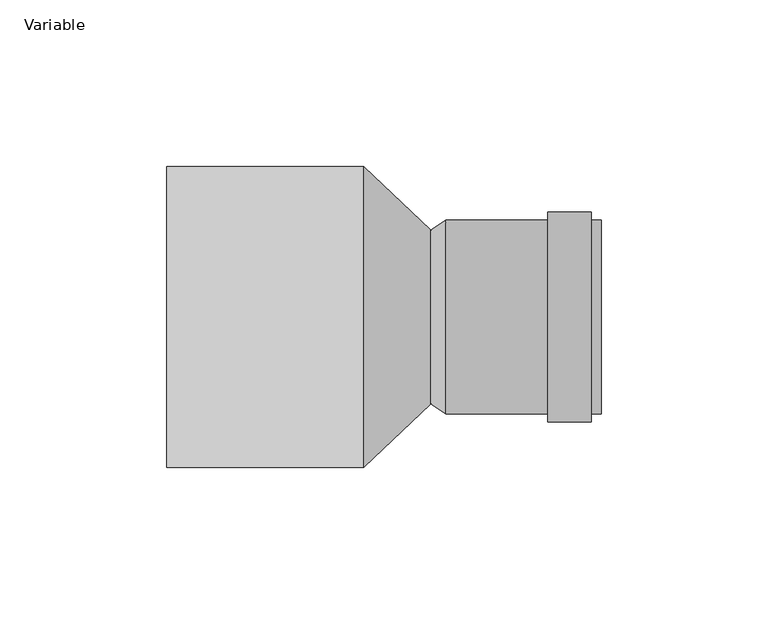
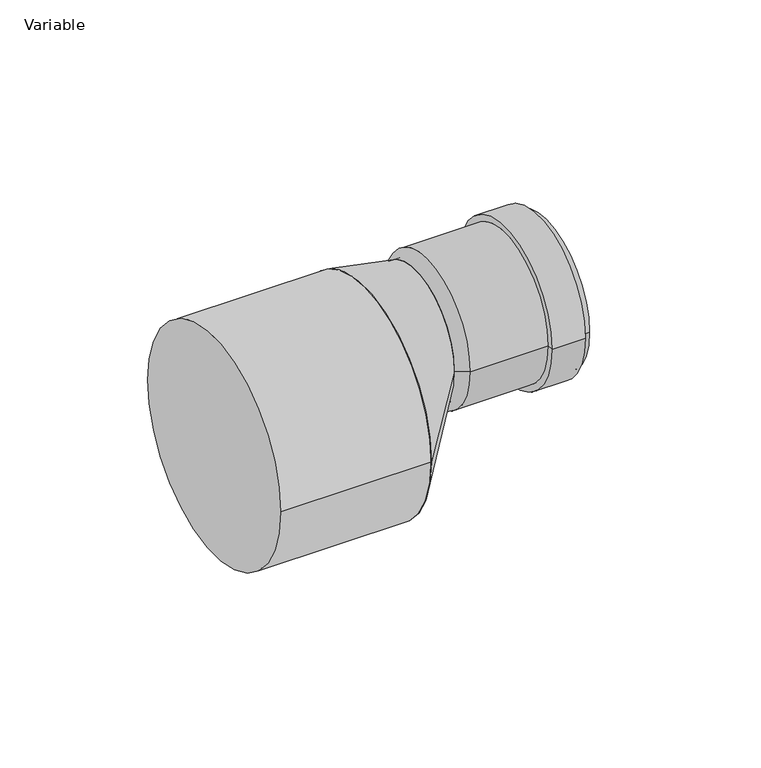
"""IFC4 building model written with IfcOpenShell, lengths in millimetres: pipe fitting geometry, AliaxisFR_Friaphon_Reducer_FR : Variable."""

import ifcopenshell
import ifcopenshell.guid

model = None  # the IFC model being written
_history = None  # IfcOwnerHistory: only IFC2X3 demands one
_inside = {}  # id of a spatial element -> (the spatial element, [elements in it])
_under = {}  # id of a project, library or spatial element -> (it, [spatial elements below it])
_declared = {}  # id of a project -> (the project, [libraries it declares])
_typed = {}  # id of a type object -> (the type object, [elements of that type])
_made_of = {}  # id of a material, layer set ... -> (it, [elements and type objects made of it])


def new_model(schema):
    """Start an empty IFC model of exactly this schema.

    Asked for "IFC4X3", IfcOpenShell would pick the latest addendum, in which some entities
    have other attributes; the version numbers below select the first issue.
    IFC2X3 requires an IfcOwnerHistory on every rooted entity: one is made here for all.
    """
    global model, _history
    if schema == "IFC4X3":
        model = ifcopenshell.file(schema_version=(4, 3, 0, 0))
    else:
        model = ifcopenshell.file(schema=schema)
    _inside.clear()
    _under.clear()
    _declared.clear()
    _typed.clear()
    _made_of.clear()
    _history = None
    if model.schema == "IFC2X3":
        org = make("IfcOrganization", Name="unknown")
        user = make(
            "IfcPersonAndOrganization",
            ThePerson=make("IfcPerson", FamilyName="unknown"),
            TheOrganization=org,
        )
        app = make(
            "IfcApplication",
            ApplicationDeveloper=org,
            Version="unknown",
            ApplicationFullName="unknown",
            ApplicationIdentifier="unknown",
        )
        _history = make(
            "IfcOwnerHistory",
            OwningUser=user,
            OwningApplication=app,
            ChangeAction="ADDED",
            CreationDate=0,
        )
    return model


def make(cls, **values):
    """One entity of the class cls with the attributes given. An attribute that is None is left unset."""
    return model.create_entity(
        cls, **{name: value for name, value in values.items() if value is not None}
    )


def rooted(cls, **values):
    """An entity with a GlobalId (a new one), such as an element, a storey or a relation."""
    return make(cls, GlobalId=ifcopenshell.guid.new(), OwnerHistory=_history, **values)


def si_unit(unit_type, name, prefix=None):
    """IfcSIUnit, for example si_unit("LENGTHUNIT", "METRE", prefix="MILLI")."""
    return make("IfcSIUnit", UnitType=unit_type, Prefix=prefix, Name=name)


def assignment(units):
    """IfcUnitAssignment: the units of a project."""
    return None if units is None else make("IfcUnitAssignment", Units=units)


def point(xyz):
    """IfcCartesianPoint."""
    return None if xyz is None else make("IfcCartesianPoint", Coordinates=xyz)


def direction(xyz):
    """IfcDirection."""
    return None if xyz is None else make("IfcDirection", DirectionRatios=xyz)


def frame(location, z_axis=None, x_axis=None):
    """IfcAxis2Placement3D, a coordinate frame: its origin and axes. An axis left out is left unset."""
    return make(
        "IfcAxis2Placement3D",
        Location=point(location),
        Axis=direction(z_axis),
        RefDirection=direction(x_axis),
    )


def frame_2d(location, x_axis=None):
    """IfcAxis2Placement2D, a coordinate frame in the plane: its origin and x axis."""
    return make(
        "IfcAxis2Placement2D", Location=point(location), RefDirection=direction(x_axis)
    )


def origin():
    """The frame at (0, 0, 0) with its axes left unset."""
    return frame((0.0, 0.0, 0.0))


def origin_2d():
    """The frame at (0, 0) in the plane with its x axis left unset."""
    return frame_2d((0.0, 0.0))


def place(relative_to, where):
    """IfcLocalPlacement: puts the frame where relative to a parent placement (None: the world)."""
    return make(
        "IfcLocalPlacement", PlacementRelTo=relative_to, RelativePlacement=where
    )


def context(
    kind, dimensions, precision=None, world=None, true_north=None, identifier=None
):
    """IfcGeometricRepresentationContext, for example the 3D "Model" context."""
    return make(
        "IfcGeometricRepresentationContext",
        ContextIdentifier=identifier,
        ContextType=kind,
        CoordinateSpaceDimension=dimensions,
        Precision=precision,
        WorldCoordinateSystem=world,
        TrueNorth=true_north,
    )


def project(units=None, contexts=None):
    """IfcProject with its units and contexts."""
    return rooted(
        "IfcProject",
        Name="project",
        RepresentationContexts=contexts,
        UnitsInContext=assignment(units),
    )


def spatial(cls, under=None, at=None, **own):
    """A site, building, storey or space (cls), placed at a placement, below another one or the project."""
    s = rooted(cls, ObjectPlacement=at, **own)
    if under is not None:
        _under.setdefault(under.id(), (under, []))[1].append(s)
    return s


def polyline(points):
    """IfcPolyline through the points."""
    return make("IfcPolyline", Points=[point(p) for p in points])


def circle_curve(where, radius):
    """IfcCircle in the frame where."""
    return make("IfcCircle", Position=where, Radius=radius)


def trimmed(basis, trim1, trim2, sense, master):
    """IfcTrimmedCurve: the piece of a basis curve between two trims."""
    return make(
        "IfcTrimmedCurve",
        BasisCurve=basis,
        Trim1=trim1,
        Trim2=trim2,
        SenseAgreement=sense,
        MasterRepresentation=master,
    )


def segment(curve, same_sense, transition):
    """IfcCompositeCurveSegment."""
    return make(
        "IfcCompositeCurveSegment",
        Transition=transition,
        SameSense=same_sense,
        ParentCurve=curve,
    )


def composite_curve(segments, self_intersect=None):
    """IfcCompositeCurve: segments joined end to end."""
    return make("IfcCompositeCurve", Segments=segments, SelfIntersect=self_intersect)


def outline(outer, holes=None, kind="AREA"):
    """IfcArbitraryClosedProfileDef: a profile drawn as a closed curve; with holes, ...WithVoids."""
    if holes is None:
        return make("IfcArbitraryClosedProfileDef", ProfileType=kind, OuterCurve=outer)
    return make(
        "IfcArbitraryProfileDefWithVoids",
        ProfileType=kind,
        OuterCurve=outer,
        InnerCurves=holes,
    )


def extrude(swept, where, along, depth):
    """IfcExtrudedAreaSolid: the profile swept, set in the frame where, extruded along a direction by depth."""
    return make(
        "IfcExtrudedAreaSolid",
        SweptArea=swept,
        Position=where,
        ExtrudedDirection=direction(along),
        Depth=depth,
    )


def shape(context_of_items, identifier, shape_type, items):
    """IfcShapeRepresentation: the items that make up one representation, for example the "Body"."""
    return make(
        "IfcShapeRepresentation",
        ContextOfItems=context_of_items,
        RepresentationIdentifier=identifier,
        RepresentationType=shape_type,
        Items=items,
    )


def source(mapping_origin, context_of_items, identifier, shape_type, items):
    """IfcRepresentationMap: a shape defined once, which mapped items show again and again."""
    return make(
        "IfcRepresentationMap",
        MappingOrigin=mapping_origin,
        MappedRepresentation=shape(context_of_items, identifier, shape_type, items),
    )


def transform(
    local_origin,
    x_axis=None,
    y_axis=None,
    z_axis=None,
    scale=None,
    scale2=None,
    scale3=None,
    uniform=True,
):
    """IfcCartesianTransformationOperator3D, or its non-uniform kind. x_axis, y_axis, z_axis: its Axis1, 2, 3."""
    if uniform:
        return make(
            "IfcCartesianTransformationOperator3D",
            Axis1=direction(x_axis),
            Axis2=direction(y_axis),
            LocalOrigin=point(local_origin),
            Scale=scale,
            Axis3=direction(z_axis),
        )
    return make(
        "IfcCartesianTransformationOperator3DnonUniform",
        Axis1=direction(x_axis),
        Axis2=direction(y_axis),
        LocalOrigin=point(local_origin),
        Scale=scale,
        Axis3=direction(z_axis),
        Scale2=scale2,
        Scale3=scale3,
    )


def mapped(mapping_source, mapping_target):
    """IfcMappedItem: shows the shape of a source again, moved by a transform."""
    return make(
        "IfcMappedItem", MappingSource=mapping_source, MappingTarget=mapping_target
    )


def made_of(thing, what):
    """Note that an element or type object is made of a material, layer set ...; save() writes the relation."""
    if what is not None:
        _made_of.setdefault(what.id(), (what, []))[1].append(thing)
    return thing


def element(
    cls,
    number,
    at=None,
    inside=None,
    cuts=None,
    type_object=None,
    material=None,
    context=None,
    identifier="Body",
    shape_type=None,
    held_by="IfcProductDefinitionShape",
    body=None,
    shapes=None,
    **own,
):
    """One element of the class cls, such as IfcWall. Its Tag is "e" and its number.

    at: its placement. inside: the storey or other place that contains it. cuts: it is an
    opening in that element (IfcRelVoidsElement). A single representation is given by context,
    identifier, shape_type and body (its items); several are given by shapes. held_by: the class
    of the entity that holds the representations. save() writes the other relations.
    """
    e = rooted(cls, Tag="e%d" % number, ObjectPlacement=at, **own)
    if body is not None:
        shapes = [shape(context, identifier, shape_type, body)]
    if shapes is not None:
        e.Representation = make(held_by, Representations=shapes)
    if inside is not None:
        _inside.setdefault(inside.id(), (inside, []))[1].append(e)
    if cuts is not None:
        rooted(
            "IfcRelVoidsElement", RelatingBuildingElement=cuts, RelatedOpeningElement=e
        )
    if type_object is not None:
        _typed.setdefault(type_object.id(), (type_object, []))[1].append(e)
    return made_of(e, material)


def aggregate(whole, parts):
    """IfcRelAggregates: a whole, such as a stair, and the parts it consists of."""
    return rooted("IfcRelAggregates", RelatingObject=whole, RelatedObjects=parts)


def save(model, path):
    """Write the relations noted so far, then the file.

    IfcRelAggregates (storeys below a building ...), IfcRelContainedInSpatialStructure (elements
    in a storey), IfcRelDefinesByType, IfcRelAssociatesMaterial and IfcRelDeclares: one each for
    every whole, place, type object, material and project.
    """
    for whole, parts in _under.values():
        aggregate(whole, parts)
    for where, things in _inside.values():
        rooted(
            "IfcRelContainedInSpatialStructure",
            RelatedElements=things,
            RelatingStructure=where,
        )
    for kind, things in _typed.values():
        rooted("IfcRelDefinesByType", RelatedObjects=things, RelatingType=kind)
    for what, things in _made_of.values():
        rooted("IfcRelAssociatesMaterial", RelatedObjects=things, RelatingMaterial=what)
    for by, libraries in _declared.values():
        rooted("IfcRelDeclares", RelatingContext=by, RelatedDefinitions=libraries)
    model.write(path)


def plane_surface(at):
    """IfcPlane: the flat surface through the origin of the frame at, square to its z axis."""
    return make("IfcPlane", Position=at)


def cylinder_surface(at, radius):
    """IfcCylindricalSurface: all points at the distance radius from the z axis of the frame at."""
    return make("IfcCylindricalSurface", Position=at, Radius=radius)


def revolved_surface(curve, axis_point, axis_direction):
    """IfcSurfaceOfRevolution: the curve turned about the line through axis_point along axis_direction."""
    return make(
        "IfcSurfaceOfRevolution",
        SweptCurve=make("IfcArbitraryOpenProfileDef", ProfileType="CURVE", Curve=curve),
        AxisPosition=make("IfcAxis1Placement", Location=point(axis_point), Axis=direction(axis_direction)),
    )


def spline_surface(u_degree, v_degree, points, u_multiplicities, v_multiplicities, u_knots, v_knots, weights=None):
    """IfcBSplineSurfaceWithKnots; with weights, IfcRationalBSplineSurfaceWithKnots. points: one row for each step in u."""
    own = dict(
        UDegree=u_degree,
        VDegree=v_degree,
        ControlPointsList=[[point(p) for p in row] for row in points],
        SurfaceForm="UNSPECIFIED",
        UClosed=False,
        VClosed=False,
        SelfIntersect=False,
        UMultiplicities=u_multiplicities,
        VMultiplicities=v_multiplicities,
        UKnots=u_knots,
        VKnots=v_knots,
        KnotSpec="UNSPECIFIED",
    )
    if weights is None:
        return make("IfcBSplineSurfaceWithKnots", **own)
    return make("IfcRationalBSplineSurfaceWithKnots", WeightsData=weights, **own)


def advanced_brep(points, edges, surfaces, faces):
    """IfcAdvancedBrep: a solid bounded by faces that lie on surfaces and meet in shared edges.

    An edge is (start, end): straight between two places in points (the first is 0);
    or (start, end, curve); or (start, end, curve, False) where it runs against its curve.
    A face is (place in surfaces, loops), or (place, loops, False) where it looks against
    its surface's normal. A loop lists edges by number (the first is 1), with a minus sign
    where the edge is run from its end to its start. The first loop is the outer one.
    """
    corners = [point(p) for p in points]
    vertices = [make("IfcVertexPoint", VertexGeometry=c) for c in corners]
    made = []
    for start, end, *more in edges:
        made.append(
            make(
                "IfcEdgeCurve",
                EdgeStart=vertices[start],
                EdgeEnd=vertices[end],
                EdgeGeometry=more[0] if more else make("IfcPolyline", Points=[corners[start], corners[end]]),
                SameSense=more[1] if len(more) > 1 else True,
            )
        )
    hull = []
    for where, loops, *sense in faces:
        bounds = []
        for j, loop in enumerate(loops):
            ring = [make("IfcOrientedEdge", EdgeElement=made[abs(k) - 1], Orientation=k > 0) for k in loop]
            bounds.append(
                make(
                    "IfcFaceOuterBound" if j == 0 else "IfcFaceBound",
                    Bound=make("IfcEdgeLoop", EdgeList=ring),
                    Orientation=True,
                )
            )
        hull.append(make("IfcAdvancedFace", Bounds=bounds, FaceSurface=surfaces[where], SameSense=sense[0] if sense else True))
    return make("IfcAdvancedBrep", Outer=make("IfcClosedShell", CfsFaces=hull))


def variable_a446220a(model_context):
    return source(origin(), model_context, "Body", "SolidModel", [
        advanced_brep(
        [(89.0, -29.0, 0.0), (89.0, -26.0, 0.0), (89.0, 26.0, 0.0), (89.0, 29.0, 0.0), (73.0, -31.5, 0.0), (86.0, -31.5, 0.0), (86.0, 31.5, 0.0), (73.0, 31.5, 0.0), (73.0, -29.0, 0.0), (73.0, 29.0, 0.0), (42.5, -29.0, 0.0), (42.5, 29.0, 0.0), (38.0, -26.0, 0.0), (38.0, 26.0, 0.0), (86.0, -29.0, 0.0), (86.0, 29.0, 0.0)],
        [
            (0, 1),
            (1, 2, circle_curve(frame((89.0, 0.0, 0.0), z_axis=(-1.0, 0.0, 0.0), x_axis=(0.0, 1.0, 0.0)), 26.0)),
            (2, 3),
            (3, 0, circle_curve(frame((89.0, 0.0, 0.0), z_axis=(1.0, 0.0, 0.0), x_axis=(0.0, 1.0, 0.0)), 29.0)),
            (2, 1, circle_curve(frame((89.0, 0.0, 0.0), z_axis=(-1.0, 0.0, 0.0), x_axis=(0.0, 1.0, 0.0)), 26.0)),
            (0, 3, circle_curve(frame((89.0, 0.0, 0.0), z_axis=(1.0, 0.0, 0.0), x_axis=(0.0, 1.0, 0.0)), 29.0)),
            (4, 5),
            (5, 6, circle_curve(frame((86.0, 0.0, 0.0), z_axis=(-1.0, 0.0, 0.0), x_axis=(0.0, 1.0, 0.0)), 31.5)),
            (6, 7),
            (7, 4, circle_curve(frame((73.0, 0.0, 0.0), z_axis=(1.0, 0.0, 0.0), x_axis=(0.0, 1.0, 0.0)), 31.5)),
            (6, 5, circle_curve(frame((86.0, 0.0, 0.0), z_axis=(-1.0, 0.0, 0.0), x_axis=(0.0, 1.0, 0.0)), 31.5)),
            (4, 7, circle_curve(frame((73.0, 0.0, 0.0), z_axis=(1.0, 0.0, 0.0), x_axis=(0.0, 1.0, 0.0)), 31.5)),
            (8, 4),
            (7, 9),
            (9, 8, circle_curve(frame((73.0, 0.0, 0.0), z_axis=(1.0, 0.0, 0.0), x_axis=(0.0, 1.0, 0.0)), 29.0)),
            (8, 9, circle_curve(frame((73.0, 0.0, 0.0), z_axis=(1.0, 0.0, 0.0), x_axis=(0.0, 1.0, 0.0)), 29.0)),
            (10, 8),
            (9, 11),
            (11, 10, circle_curve(frame((42.5, 0.0, 0.0), z_axis=(1.0, 0.0, 0.0), x_axis=(0.0, 1.0, 0.0)), 29.0)),
            (10, 11, circle_curve(frame((42.5, 0.0, 0.0), z_axis=(1.0, 0.0, 0.0), x_axis=(0.0, 1.0, 0.0)), 29.0)),
            (1, 12),
            (12, 13, circle_curve(frame((38.0, 0.0, 0.0), z_axis=(-1.0, 0.0, 0.0), x_axis=(0.0, 1.0, 0.0)), 26.0)),
            (13, 2),
            (13, 12, circle_curve(frame((38.0, 0.0, 0.0), z_axis=(-1.0, 0.0, 0.0), x_axis=(0.0, 1.0, 0.0)), 26.0)),
            (12, 10),
            (11, 13),
            (14, 0),
            (3, 15),
            (15, 14, circle_curve(frame((86.0, 0.0, 0.0), z_axis=(1.0, 0.0, 0.0), x_axis=(0.0, 1.0, 0.0)), 29.0)),
            (14, 15, circle_curve(frame((86.0, 0.0, 0.0), z_axis=(1.0, 0.0, 0.0), x_axis=(0.0, 1.0, 0.0)), 29.0)),
            (5, 14),
            (15, 6),
        ],
        [
            plane_surface(frame((89.0, 0.0, 0.0), z_axis=(1.0, 0.0, 0.0), x_axis=(0.0, 1.0, 0.0))),
            cylinder_surface(frame((38.0, 0.0, 0.0), z_axis=(-1.0, 0.0, 0.0), x_axis=(0.0, 1.0, 0.0)), 31.5),
            plane_surface(frame((73.0, 0.0, 0.0), z_axis=(-1.0, 0.0, 0.0), x_axis=(0.0, 1.0, 0.0))),
            cylinder_surface(frame((38.0, 0.0, 0.0), z_axis=(-1.0, 0.0, 0.0), x_axis=(0.0, 1.0, 0.0)), 29.0),
            revolved_surface(polyline([(38.0, 26.0, 0.0), (89.0, 26.0, 0.0)]), (38.0, 0.0, 0.0), (-1.0, 0.0, 0.0)),
            revolved_surface(polyline([(42.5, 29.0, 0.0), (38.0, 26.0, 0.0)]), (38.0, 0.0, 0.0), (-1.0, 0.0, 0.0)),
            plane_surface(frame((86.0, 0.0, 0.0), z_axis=(1.0, 0.0, 0.0), x_axis=(0.0, 1.0, 0.0))),
        ],
        [
            (0, [[1, 2, 3, 4]]),
            (0, [[-3, 5, -1, 6]]),
            (1, [[7, 8, 9, 10]]),
            (1, [[-9, 11, -7, 12]]),
            (2, [[13, -10, 14, 15]]),
            (2, [[-14, -12, -13, 16]]),
            (3, [[17, -15, 18, 19]]),
            (3, [[-18, -16, -17, 20]]),
            (4, [[21, 22, 23, -2]]),
            (4, [[-23, 24, -21, -5]]),
            (5, [[25, -19, 26, -22]]),
            (5, [[-26, -20, -25, -24]]),
            (3, [[27, -4, 28, 29]]),
            (3, [[-28, -6, -27, 30]]),
            (6, [[31, -29, 32, -8]]),
            (6, [[-32, -30, -31, -11]]),
        ],
    ),
        extrude(outline(composite_curve([segment(trimmed(circle_curve(origin_2d(), 26.0), [point((-26.0, 0.0))], [point((26.0, 0.0))], False, "CARTESIAN"), True, "CONTINUOUS"), segment(trimmed(circle_curve(origin_2d(), 26.0), [point((26.0, 0.0))], [point((-26.0, 0.0))], False, "CARTESIAN"), True, "CONTINUOUS")], self_intersect=False)), frame((38.0, 0.0, 0.0), z_axis=(1.0, 0.0, 0.0), x_axis=(0.0, 1.0, 0.0)), (0.0, 0.0, 1.0), 3.0),
        advanced_brep(
        [(38.0, -26.0, 0.0), (38.0, 26.0, 0.0), (18.0, -45.0, -19.0), (18.0, 45.0, -19.0)],
        [
            (0, 1, circle_curve(frame((38.0, 0.0, 0.0), z_axis=(1.0, 0.0, 0.0), x_axis=(0.0, 1.0, 0.0)), 26.0)),
            (1, 0, circle_curve(frame((38.0, 0.0, 0.0), z_axis=(1.0, 0.0, 0.0), x_axis=(0.0, 1.0, 0.0)), 26.0)),
            (2, 3, circle_curve(frame((18.0, 0.0, -19.0), z_axis=(-1.0, 0.0, 0.0), x_axis=(0.0, 1.0, 0.0)), 45.0)),
            (3, 2, circle_curve(frame((18.0, 0.0, -19.0), z_axis=(-1.0, 0.0, 0.0), x_axis=(0.0, 1.0, 0.0)), 45.0)),
            (2, 0),
            (1, 3),
        ],
        [
            plane_surface(frame((38.0, 0.0, 0.0), z_axis=(1.0, 0.0, 0.0), x_axis=(0.0, 0.0, 1.0))),
            plane_surface(frame((18.0, 0.0, -19.0), z_axis=(-1.0, 0.0, 0.0), x_axis=(0.0, 0.0, 1.0))),
            spline_surface(1, 2, [[(18.0, -45.0, -19.0), (18.0, -45.0, 26.0), (18.0, 0.0, 26.0), (18.0, 45.0, 26.0), (18.0, 45.0, -19.0)], [(38.0, -26.0, 0.0), (38.0, -26.0, 26.0), (38.0, 0.0, 26.0), (38.0, 26.0, 26.0), (38.0, 26.0, 0.0)]], [2, 2], [3, 2, 3], [0.0, 1.0], [0.0, 1.0, 2.0], weights=[[1.0, 0.7071067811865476, 1.0, 0.7071067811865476, 1.0], [1.0, 0.7071067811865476, 1.0, 0.7071067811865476, 1.0]]),
            spline_surface(1, 2, [[(18.0, 45.0, -19.0), (18.0, 45.0, -64.0), (18.0, 0.0, -64.0), (18.0, -45.0, -64.0), (18.0, -45.0, -19.0)], [(38.0, 26.0, 0.0), (38.0, 26.0, -26.0), (38.0, 0.0, -26.0), (38.0, -26.0, -26.0), (38.0, -26.0, 0.0)]], [2, 2], [3, 2, 3], [0.0, 1.0], [0.0, 1.0, 2.0], weights=[[1.0, 0.7071067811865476, 1.0, 0.7071067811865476, 1.0], [1.0, 0.7071067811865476, 1.0, 0.7071067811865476, 1.0]]),
        ],
        [
            (0, [[1, 2]]),
            (1, [[3, 4]]),
            (2, [[5, -2, 6, -3]]),
            (3, [[-6, -1, -5, -4]]),
        ],
    ),
        extrude(outline(composite_curve([segment(trimmed(circle_curve(frame_2d((0.0, -19.0)), 45.0), [point((-45.0, -19.0))], [point((45.0, -19.0))], False, "CARTESIAN"), True, "CONTINUOUS"), segment(trimmed(circle_curve(frame_2d((0.0, -19.0)), 45.0), [point((45.0, -19.0))], [point((-45.0, -19.0))], False, "CARTESIAN"), True, "CONTINUOUS")], self_intersect=False)), frame((-41.0, 0.0, 0.0), z_axis=(1.0, 0.0, 0.0), x_axis=(0.0, 1.0, 0.0)), (0.0, 0.0, 1.0), 59.0),
    ])


if __name__ == "__main__":
    model = new_model("IFC4")
    model_context = context("Model", 3, world=origin())
    ifc_project = project(units=[si_unit("LENGTHUNIT", "METRE", prefix="MILLI")], contexts=[model_context])
    site = spatial("IfcSite", under=ifc_project)
    building = spatial("IfcBuilding", under=site)
    placement = place(None, origin())
    variable_shape = variable_a446220a(model_context)
    element("IfcPipeFitting", 1, ObjectType="AliaxisFR_Friaphon_Reducer_FR : Variable", at=placement, inside=building, context=model_context, shape_type="MappedRepresentation", body=[
        mapped(variable_shape, transform((0.0, 0.0, 0.0), x_axis=(1.0, 0.0, 0.0), y_axis=(0.0, 1.0, 0.0), z_axis=(0.0, 0.0, 1.0))),
    ])
    save(model, "model.ifc")
